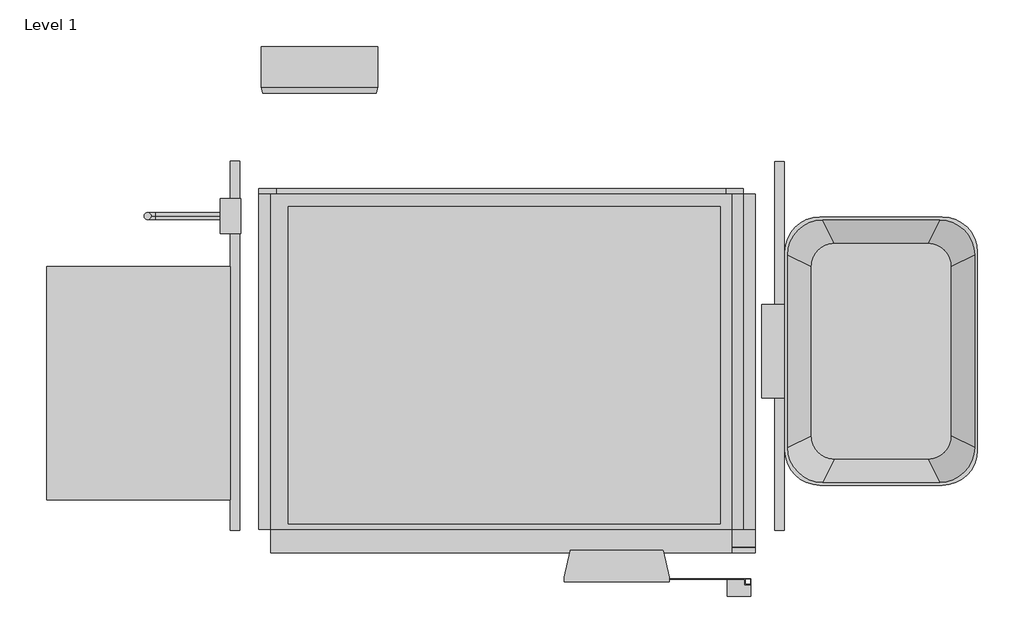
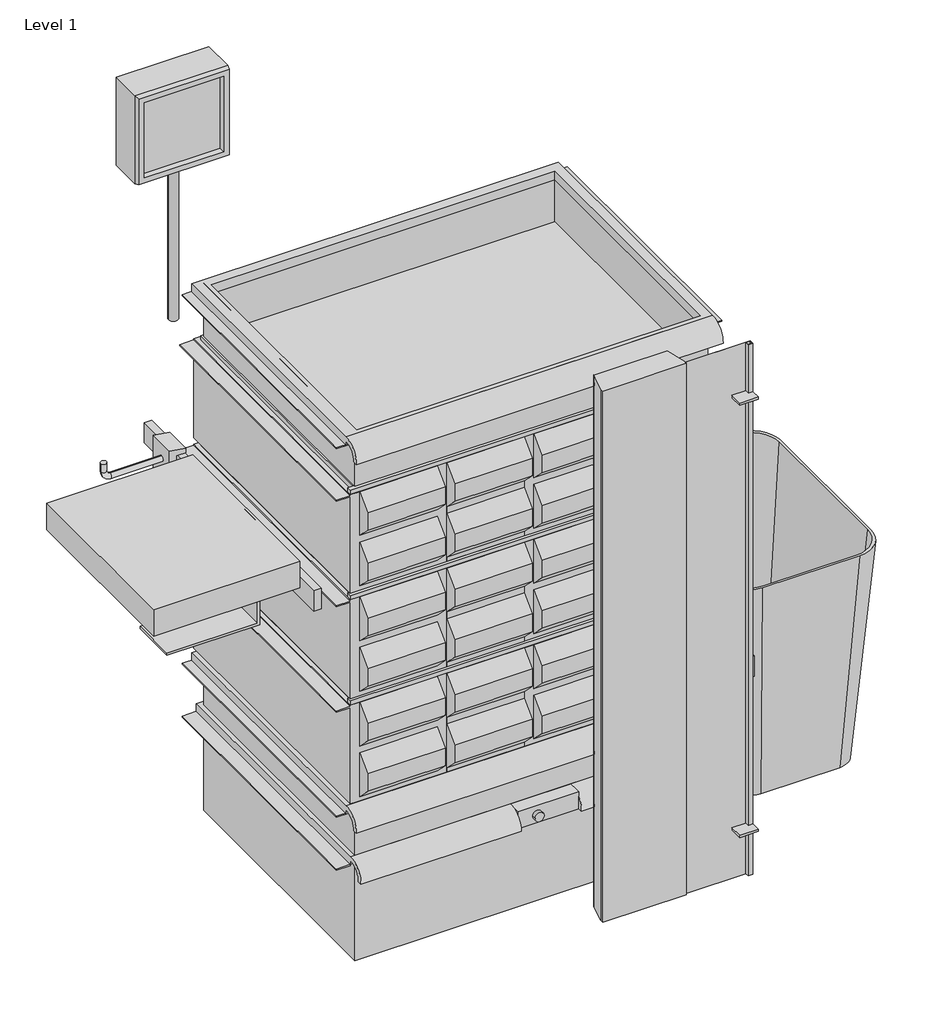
# One storey, incomplete: 16 furniture elements.
"""IFC4 building model written with IfcOpenShell, lengths in millimetres."""

from ifc_helpers import new_model, si_unit, origin, place, context, project, spatial, transform, mapped, element, save
from components import furniture_699e4faa, furniture_92bb6587, furniture_beea0197, furniture_90ba0c3f, furniture_c484342d, furniture_1926b776, furniture_d049413f, furniture_3d7ec7b2, furniture_59e9410e, furniture_df956a46, furniture_63bd0a72, furniture_5e9628dd, utility_hook_d18f2f74, wall_lock_8c3d628b

model = new_model("IFC4")

# Units and contexts
model_context = context("Model", 3, world=origin())
ifc_project = project(units=[si_unit("LENGTHUNIT", "METRE", prefix="MILLI")], contexts=[model_context])

# Site, building, storey
site = spatial("IfcSite", under=ifc_project)
building = spatial("IfcBuilding", under=site)
storey = spatial("IfcBuildingStorey", under=building, Name="Level 1", Elevation=0.0)

# Furniture
placement = place(None, origin())
furniture_shape = furniture_699e4faa(model_context)
element("IfcFurniture", 1, ObjectType="HermanMiller_Carts_CT710_LockBarRight : 42H Cart Rt Side Lock Keyed Alike", at=placement, inside=storey, context=model_context, shape_type="MappedRepresentation", body=[
    mapped(furniture_shape, transform((547.3346158, -513.3171772, 209.55), x_axis=(1.0, 0.0, 0.0), y_axis=(0.0, 1.0, 0.0), z_axis=(0.0, 0.0, 1.0))),
])
furniture_2_shape = furniture_92bb6587(model_context)
element("IfcFurniture", 2, ObjectType="HermanMiller_Carts_CT734_SharpsContainerHolder : 9H x 3D", at=placement, inside=storey, context=model_context, shape_type="MappedRepresentation", body=[
    mapped(furniture_2_shape, transform((-33.3287613, -333.7054712, 0.0), x_axis=(1.0, 0.0, 0.0), y_axis=(0.0, 1.0, 0.0), z_axis=(0.0, 0.0, 1.0))),
])
furniture_3_shape = furniture_beea0197(model_context)
element("IfcFurniture", 3, ObjectType="HermanMiller_Carts_CT728_WastebasketAndHolder : 12H x 8D x 11W", at=placement, inside=storey, context=model_context, shape_type="MappedRepresentation", body=[
    mapped(furniture_3_shape, transform((756.1964638, -152.6828972, 0.0), x_axis=(1.0, 0.0, 0.0), y_axis=(0.0, 1.0, 0.0), z_axis=(0.0, 0.0, 1.0))),
])
furniture_4_shape = furniture_90ba0c3f(model_context)
element("IfcFurniture", 4, ObjectType="HermanMiller_Carts_CT501_Drawer : 3\"H x 15\"D x 20\"W", at=placement, inside=storey, context=model_context, shape_type="MappedRepresentation", body=[
    mapped(furniture_4_shape, transform((348.5137501, -323.1346772, 0.0), x_axis=(1.0, 0.0, 0.0), y_axis=(0.0, 1.0, 0.0), z_axis=(0.0, 0.0, 1.0))),
])
furniture_5_shape = furniture_c484342d(model_context)
element("IfcFurniture", 5, ObjectType="HermanMiller_Carts_CT501_Drawer : 3\"H x 15\"D x 20\"W", at=placement, inside=storey, context=model_context, shape_type="MappedRepresentation", body=[
    mapped(furniture_5_shape, transform((348.5137501, -323.1346772, 0.0), x_axis=(1.0, 0.0, 0.0), y_axis=(0.0, 1.0, 0.0), z_axis=(0.0, 0.0, 1.0))),
])
furniture_6_shape = furniture_1926b776(model_context)
element("IfcFurniture", 6, ObjectType="HermanMiller_Carts_CT501_Drawer : 6\"H X 15\"D X 20\"W WITH STOP Key Diff", at=placement, inside=storey, context=model_context, shape_type="MappedRepresentation", body=[
    mapped(furniture_6_shape, transform((348.5137501, -323.1346772, 0.0), x_axis=(1.0, 0.0, 0.0), y_axis=(0.0, 1.0, 0.0), z_axis=(0.0, 0.0, 1.0))),
])
furniture_7_shape = furniture_d049413f(model_context)
element("IfcFurniture", 7, ObjectType="HermanMiller_Carts_CT542_CassetteCover : 15\"D x 20\"W Cover", at=placement, inside=storey, context=model_context, shape_type="MappedRepresentation", body=[
    mapped(furniture_7_shape, transform((97.91125, -492.9971772, 601.6841216), x_axis=(1.0, 0.0, 0.0), y_axis=(0.0, 1.0, 0.0), z_axis=(0.0, 0.0, 1.0))),
])
element("IfcFurniture", 8, ObjectType="HermanMiller_Carts_CT542_CassetteCover : 15\"D x 20\"W Cover", at=placement, inside=storey, context=model_context, shape_type="MappedRepresentation", body=[
    mapped(furniture_7_shape, transform((97.91125, -492.9971772, 754.0841216), x_axis=(1.0, 0.0, 0.0), y_axis=(0.0, 1.0, 0.0), z_axis=(0.0, 0.0, 1.0))),
])
element("IfcFurniture", 9, ObjectType="HermanMiller_Carts_CT542_CassetteCover : 15\"D x 20\"W Cover", at=placement, inside=storey, context=model_context, shape_type="MappedRepresentation", body=[
    mapped(furniture_7_shape, transform((97.91125, -492.9971772, 906.4841216), x_axis=(1.0, 0.0, 0.0), y_axis=(0.0, 1.0, 0.0), z_axis=(0.0, 0.0, 1.0))),
])
furniture_8_shape = furniture_3d7ec7b2(model_context)
element("IfcFurniture", 10, ObjectType="HermanMiller_Carts_CT542_Cassette : 6\"H x 15\"D x 20\"W Bin", at=placement, inside=storey, context=model_context, shape_type="MappedRepresentation", body=[
    mapped(furniture_8_shape, transform((367.78625, -323.1346772, 0.0), x_axis=(1.0, 0.0, 0.0), y_axis=(0.0, 1.0, 0.0), z_axis=(0.0, 0.0, 1.0))),
])
furniture_9_shape = furniture_59e9410e(model_context)
element("IfcFurniture", 11, ObjectType="HermanMiller_Carts_CT542_Cassette : 6\"H x 15\"D x 20\"W Bin", at=placement, inside=storey, context=model_context, shape_type="MappedRepresentation", body=[
    mapped(furniture_9_shape, transform((367.78625, -323.1346772, 0.0), x_axis=(1.0, 0.0, 0.0), y_axis=(0.0, 1.0, 0.0), z_axis=(0.0, 0.0, 1.0))),
])
furniture_10_shape = furniture_df956a46(model_context)
element("IfcFurniture", 12, ObjectType="HermanMiller_Carts_CT542_Cassette : 6\"H x 15\"D x 20\"W Bin", at=placement, inside=storey, context=model_context, shape_type="MappedRepresentation", body=[
    mapped(furniture_10_shape, transform((367.78625, -323.1346772, 0.0), x_axis=(1.0, 0.0, 0.0), y_axis=(0.0, 1.0, 0.0), z_axis=(0.0, 0.0, 1.0))),
])
furniture_11_shape = furniture_63bd0a72(model_context)
element("IfcFurniture", 13, ObjectType="HermanMiller_Carts_CT782_AccessoryRailSide : 15\"W Left Sect 4", at=placement, inside=storey, context=model_context, shape_type="MappedRepresentation", body=[
    mapped(furniture_11_shape, transform((71.8018387, -292.8451772, 0.0), x_axis=(1.0, 0.0, 0.0), y_axis=(0.0, 1.0, 0.0), z_axis=(0.0, 0.0, 1.0))),
])
furniture_12_shape = furniture_5e9628dd(model_context)
element("IfcFurniture", 14, ObjectType="HermanMiller_Carts_CT782_AccessoryRailSide : 15\"W Right Sect 2", at=placement, inside=storey, context=model_context, shape_type="MappedRepresentation", body=[
    mapped(furniture_12_shape, transform((664.10568, -292.8451772, 0.0), x_axis=(1.0, 0.0, 0.0), y_axis=(0.0, 1.0, 0.0), z_axis=(0.0, 0.0, 1.0))),
])
utility_hook_shape = utility_hook_d18f2f74(model_context)
element("IfcFurniture", 15, ObjectType="HermanMiller_Carts_CT776_UtilityHook : Utility Hook", at=placement, inside=storey, context=model_context, shape_type="MappedRepresentation", body=[
    mapped(utility_hook_shape, transform((66.7510296, -151.6433891, 0.0), x_axis=(1.1019615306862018e-05, -0.9999999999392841, 0.0), y_axis=(0.9999999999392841, 1.1019615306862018e-05, 0.0), z_axis=(0.0, 0.0, 1.0))),
])
wall_lock_shape = wall_lock_8c3d628b(model_context)
element("IfcFurniture", 16, ObjectType="HermanMiller_Carts_CT708_WallLock : Wall Lock", at=placement, inside=storey, context=model_context, shape_type="MappedRepresentation", body=[
    mapped(wall_lock_shape, transform((163.81155, 32.9352228, 0.0), x_axis=(1.0, 0.0, 0.0), y_axis=(0.0, 1.0, 0.0), z_axis=(0.0, 0.0, 1.0))),
])

save(model, "model.ifc")
